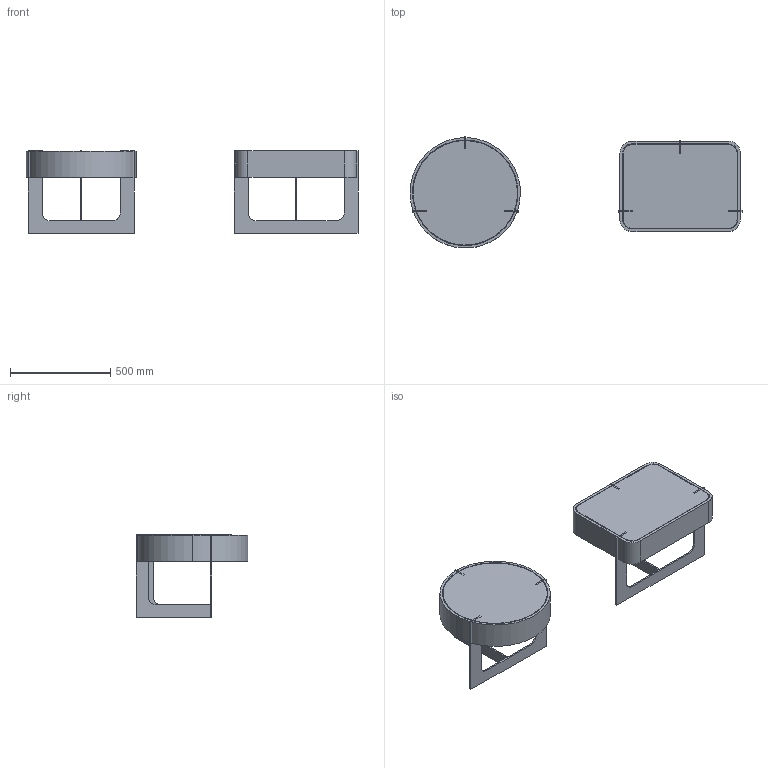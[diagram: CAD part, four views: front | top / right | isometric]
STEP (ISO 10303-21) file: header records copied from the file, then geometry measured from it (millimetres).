
FILE_DESCRIPTION(/* description */ (''),/* implementation_level */ '2;1');
FILE_NAME(/* name */ 'COMODINI 3D CON MARMO',/* time_stamp */ '2023-10-30T17:46:07+01:00',/* author */ (''),/* organization */ (''),/* preprocessor_version */ 'ST-DEVELOPER v16.5',/* originating_system */ 'Rhino 7.23',/* authorisation */ '');
FILE_SCHEMA (('CONFIG_CONTROL_DESIGN'));
Length unit declared in the file: centimetre
Products named in the file (1): Document
Bounding box: 1653.7 x 557.52 x 409.54 mm (x, y, z)
Volume: 27537497.5 mm3; surface area: 3548726 mm2
Topology: 10 solids, 10 shells, 150 faces, 340 edges, 212 vertices
Faces by surface type: plane 90, cylinder 36, bspline 24
Entity records: 3700 total; most frequent: CARTESIAN_POINT 1344, ORIENTED_EDGE 680, EDGE_CURVE 340, VERTEX_POINT 212, B_SPLINE_CURVE_WITH_KNOTS 174, EDGE_LOOP 156, ADVANCED_FACE 150, FACE_OUTER_BOUND 150
